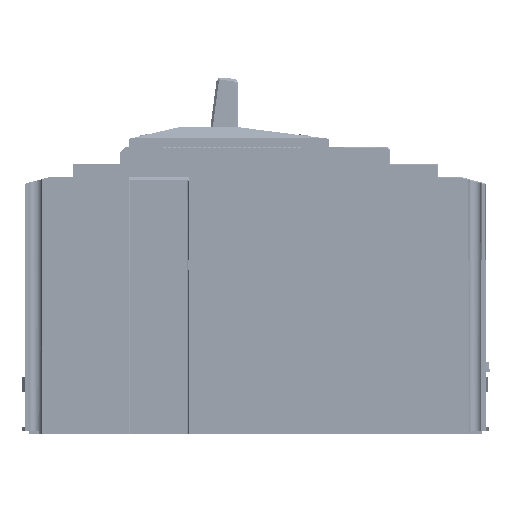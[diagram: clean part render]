
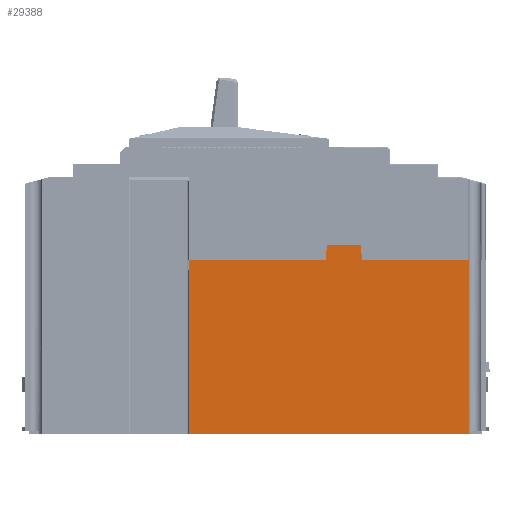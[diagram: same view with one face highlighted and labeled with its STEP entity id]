
A CAD part, top view. The second image highlights one B-rep face of the part: STEP entity #29388.
In plain terms, the highlighted planar face has unit normal (0, 0, 1).
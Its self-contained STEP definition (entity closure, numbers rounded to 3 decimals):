
#4614=DIRECTION('',(0.,1.,0.));
#4615=VECTOR('',#4614,52.2);
#4616=CARTESIAN_POINT('',(77.9,0.,75.));
#4617=LINE('',#4616,#4615);
#4626=DIRECTION('',(0.,1.,0.));
#4627=VECTOR('',#4626,52.2);
#4628=CARTESIAN_POINT('',(-6.,0.,75.));
#4629=LINE('',#4628,#4627);
#4630=DIRECTION('',(0.106,0.994,0.));
#4631=VECTOR('',#4630,4.525);
#4632=CARTESIAN_POINT('',(35.021,52.2,75.));
#4633=LINE('',#4632,#4631);
#4634=DIRECTION('',(1.,0.,0.));
#4635=VECTOR('',#4634,10.);
#4636=CARTESIAN_POINT('',(35.5,56.7,75.));
#4637=LINE('',#4636,#4635);
#4638=DIRECTION('',(0.106,-0.994,0.));
#4639=VECTOR('',#4638,4.525);
#4640=CARTESIAN_POINT('',(45.5,56.7,75.));
#4641=LINE('',#4640,#4639);
#4642=DIRECTION('',(-1.,0.,0.));
#4643=VECTOR('',#4642,83.9);
#4644=CARTESIAN_POINT('',(77.9,0.,75.));
#4645=LINE('',#4644,#4643);
#4842=DIRECTION('',(-1.,0.,0.));
#4843=VECTOR('',#4842,41.021);
#4844=CARTESIAN_POINT('',(35.021,52.2,75.));
#4845=LINE('',#4844,#4843);
#4902=DIRECTION('',(-1.,0.,0.));
#4903=VECTOR('',#4902,31.921);
#4904=CARTESIAN_POINT('',(77.9,52.2,75.));
#4905=LINE('',#4904,#4903);
#21117=CARTESIAN_POINT('',(35.021,52.2,75.));
#21118=VERTEX_POINT('',#21117);
#21119=CARTESIAN_POINT('',(-6.,52.2,75.));
#21120=VERTEX_POINT('',#21119);
#21133=CARTESIAN_POINT('',(77.9,52.2,75.));
#21134=VERTEX_POINT('',#21133);
#21135=CARTESIAN_POINT('',(45.979,52.2,75.));
#21136=VERTEX_POINT('',#21135);
#22608=CARTESIAN_POINT('',(-6.,0.,75.));
#22609=VERTEX_POINT('',#22608);
#22610=CARTESIAN_POINT('',(35.5,56.7,75.));
#22611=VERTEX_POINT('',#22610);
#22612=CARTESIAN_POINT('',(45.5,56.7,75.));
#22613=VERTEX_POINT('',#22612);
#22614=CARTESIAN_POINT('',(77.9,0.,75.));
#22615=VERTEX_POINT('',#22614);
#29367=CARTESIAN_POINT('',(-55.,0.,75.));
#29368=DIRECTION('',(0.,0.,1.));
#29369=DIRECTION('',(1.,0.,0.));
#29370=AXIS2_PLACEMENT_3D('',#29367,#29368,#29369);
#29371=PLANE('',#29370);
#29373=ORIENTED_EDGE('',*,*,#29372,.T.);
#29375=ORIENTED_EDGE('',*,*,#29374,.F.);
#29377=ORIENTED_EDGE('',*,*,#29376,.T.);
#29379=ORIENTED_EDGE('',*,*,#29378,.T.);
#29381=ORIENTED_EDGE('',*,*,#29380,.T.);
#29383=ORIENTED_EDGE('',*,*,#29382,.F.);
#29384=ORIENTED_EDGE('',*,*,#29354,.F.);
#29385=ORIENTED_EDGE('',*,*,#25069,.T.);
#29386=EDGE_LOOP('',(#29373,#29375,#29377,#29379,#29381,#29383,#29384,#29385));
#29387=FACE_OUTER_BOUND('',#29386,.F.);
#29388=ADVANCED_FACE('',(#29387),#29371,.T.);
#25069=EDGE_CURVE('',#22615,#22609,#4645,.T.);
#29354=EDGE_CURVE('',#22615,#21134,#4617,.T.);
#29372=EDGE_CURVE('',#22609,#21120,#4629,.T.);
#29374=EDGE_CURVE('',#21118,#21120,#4845,.T.);
#29376=EDGE_CURVE('',#21118,#22611,#4633,.T.);
#29378=EDGE_CURVE('',#22611,#22613,#4637,.T.);
#29380=EDGE_CURVE('',#22613,#21136,#4641,.T.);
#29382=EDGE_CURVE('',#21134,#21136,#4905,.T.);
